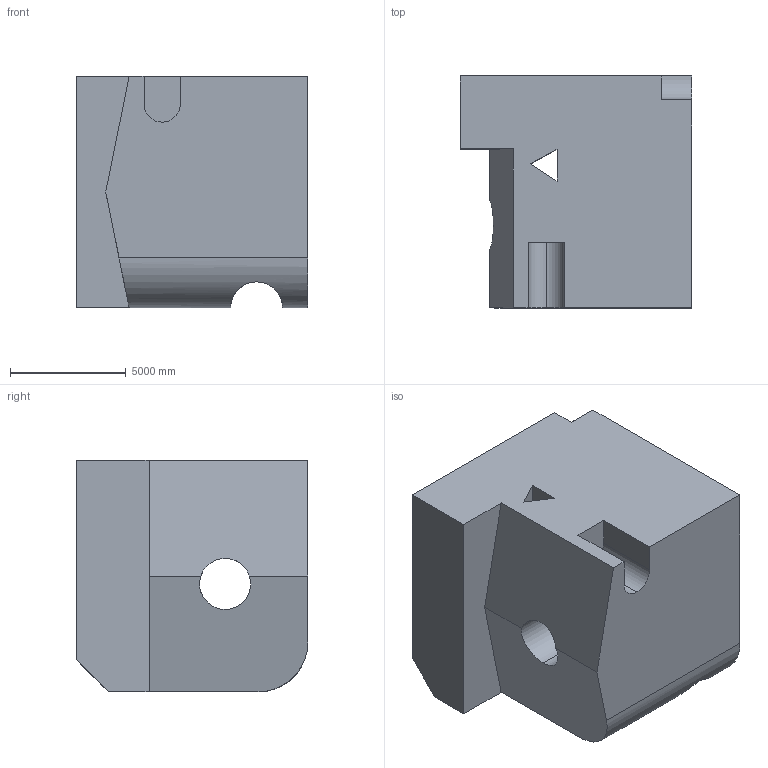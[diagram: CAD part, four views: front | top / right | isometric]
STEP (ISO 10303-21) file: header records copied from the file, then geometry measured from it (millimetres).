
FILE_DESCRIPTION (( 'STEP AP203' ), '1' );
FILE_NAME ('1975.STEP', '2022-08-23T10:09:31', ( 'user' ), ( '' ), 'SwSTEP 2.0', 'SolidWorks 2021', '' );
FILE_SCHEMA (( 'CONFIG_CONTROL_DESIGN' ));
Length unit declared in the file: centimetre
Products named in the file (1): 1975
Bounding box: 10000 x 10000 x 10000 mm (x, y, z)
Volume: 776225430278.1 mm3; surface area: 699520784.8 mm2
Topology: 1 solids, 1 shells, 39 faces, 108 edges, 72 vertices
Faces by surface type: plane 32, cylinder 7
Entity records: 1500 total; most frequent: CARTESIAN_POINT 424, ORIENTED_EDGE 216, DIRECTION 190, EDGE_CURVE 108, LINE 92, VECTOR 92, VERTEX_POINT 72, AXIS2_PLACEMENT_3D 49
